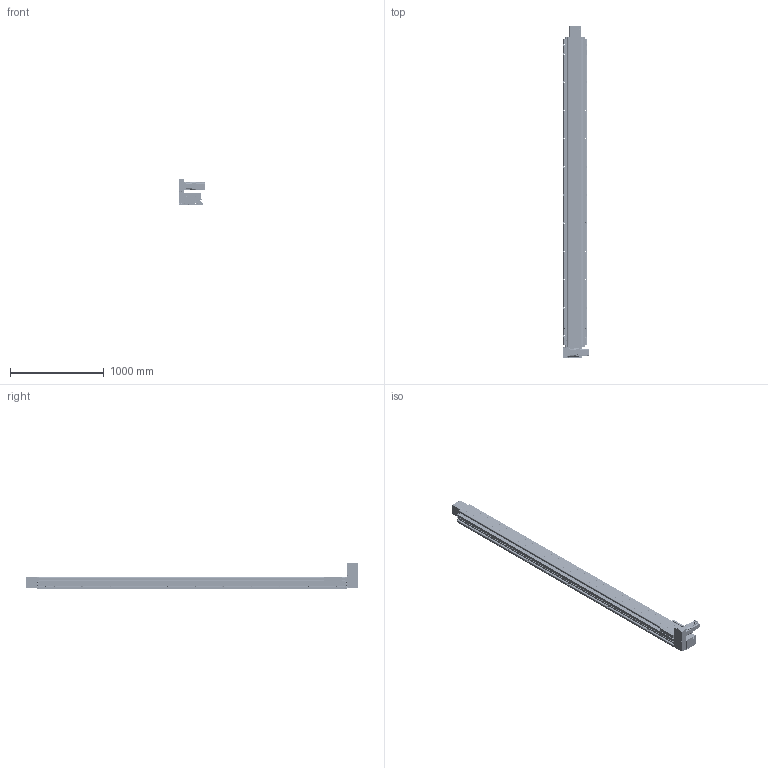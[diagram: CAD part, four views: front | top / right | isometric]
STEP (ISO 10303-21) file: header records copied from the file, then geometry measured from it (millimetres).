
FILE_DESCRIPTION(/* description */ (''),/* implementation_level */ '2;1');
FILE_NAME(/* name */ '\\192.168.0.160\disk1\HAN SHIN Master\B-설계부문\C-표준\B-2024년\BC02-표준도면\+로봇 개선표준도면\홈페이지 표준 도면\홈페이지 최종 작업 폴더\3D\HSB\HSB210\UL\HSB210-UL7G-N-3000-R.stp',/* time_stamp */ '2025-06-19T09:44:46+09:00',/* author */ ('user'),/* organization */ (''),/* preprocessor_version */ 'ST-DEVELOPER v18.1',/* originating_system */ 'Autodesk Inventor 2022',/* authorisation */ '');
FILE_SCHEMA (('AUTOMOTIVE_DESIGN { 1 0 10303 214 3 1 1 }'));
Products named in the file (37): HSB210-UL7G-N-0500-R; HSB210 BASE - 2000ST; HSB210 FORNT HOUSUNG-Connecting Shaft; HSB160 SHAFT-1; HSB160 BEARING OVER; HSB210 FRONT COVER; REAR HOUSUNG-1-R1; HSB160 ARC COVER; HSB160 REAR SHAFT-2; REAR SHAFT--2; 6004ZZ; 6004ZZ Outer ring; 6004ZZ Shield1; 6004ZZ Inner ring; 6004ZZ Ball; 6004ZZ Shield2; UPCOVER; SIDE COVER; PGX90-H-1_3; HR200 SENSOR DOG; hsr_ftht_A-M6F_grease_nipple_joint; NIPPLE CAP(신규); SENSOR BRK(EE-SX674A); EE_SX674A; 6308ZZ; TENSION PLATE; HSB210 END COVER-1; HG90STOPPER - 27L; HSB210 TABLE (TEST); hg-kr73_; HSB210 U MOTOR PLATE ASSY; HSB210 D BELT COVER-R1; HG200DACRYLCOVER003; 750W MOTOR PLATE; HSB210 U BELT COVER; HG200DACRYLCOVER001; HG200DACRYLCOVER002
Assembly tree (70 placements, depth 3):
  HSB210-UL7G-N-0500-R
    HSB210 BASE - 2000ST
    HSB210 FRONT COVER  x2
    HSB210 FORNT HOUSUNG-Connecting Shaft
    HSB160 SHAFT-1
    HSB160 BEARING OVER
    HSB160 ARC COVER  x4
    REAR HOUSUNG-1-R1
    HSB160 REAR SHAFT-2
    REAR SHAFT--2
    6004ZZ  x2
      6004ZZ Outer ring
      6004ZZ Shield1
      6004ZZ Inner ring
      6004ZZ Ball
      6004ZZ Shield2
    TENSION PLATE  x2
    UPCOVER
    SIDE COVER  x2
    PGX90-H-1_3
    HG90STOPPER - 27L  x4
    HR200 SENSOR DOG
    SENSOR BRK(EE-SX674A)  x3
    EE_SX674A  x3
    NIPPLE CAP(신규)  x4
    hsr_ftht_A-M6F_grease_nipple_joint  x4
    6308ZZ  x2
    HSB210 END COVER-1
    HSB210 TABLE (TEST)
    hg-kr73_
    HSB210 U MOTOR PLATE ASSY
      HSB210 D BELT COVER-R1
      HG200DACRYLCOVER003
      750W MOTOR PLATE
      HSB210 U BELT COVER
      HG200DACRYLCOVER001
      HG200DACRYLCOVER002  x2
Bounding box: 284.5 x 3534 x 278.5 mm (x, y, z)
Volume: 30835365 mm3; surface area: 6626314.2 mm2
Topology: 131 solids, 133 shells, 8113 faces, 22627 edges, 14939 vertices
Faces by surface type: plane 6115, cylinder 1436, cone 394, sphere 84, torus 59, bspline 25
Full cylindrical faces by diameter (mm): 2.013 x2, 2.459 x50, 3 x8, 3.2 x4, 3.242 x48, 3.4 x22, 3.5 x6, 4.134 x2, 4.2 x16, 4.5 x36, 4.917 x36, 5 x56, 5.1 x1, 5.5 x13, 5.6 x4, 5.9 x4, 6 x15, 6.5 x9, 6.6 x8, 6.647 x54, 6.8 x9, 7 x20, 7.6 x4, 8 x13, 8.433 x2, 9 x46, 9.5 x7, 10 x5, 10.106 x24, 11 x20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
Entity records: 179131 total; most frequent: CARTESIAN_POINT 34756, ORIENTED_EDGE 29912, DIRECTION 28740, EDGE_CURVE 14956, LINE 11512, VECTOR 11512, VERTEX_POINT 9964, AXIS2_PLACEMENT_3D 8614
